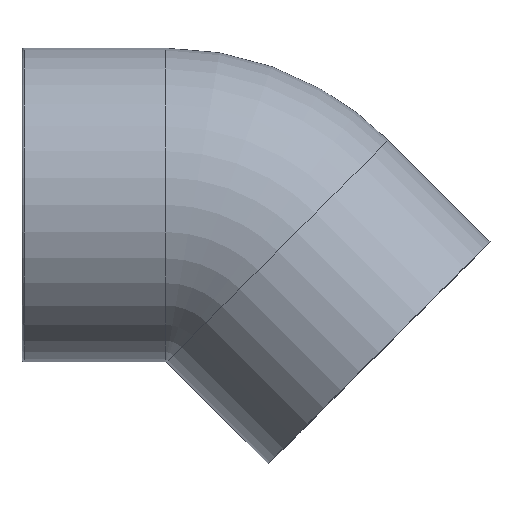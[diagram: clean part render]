
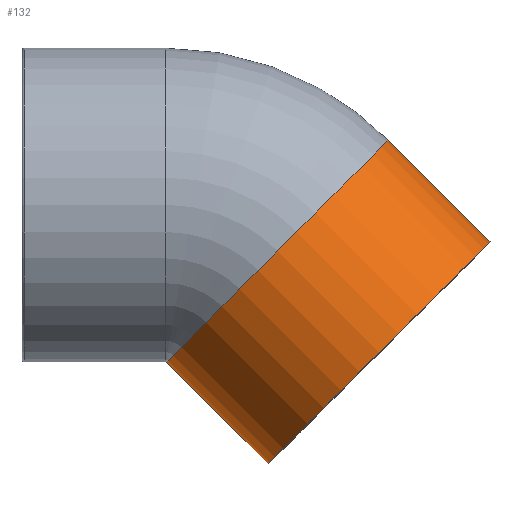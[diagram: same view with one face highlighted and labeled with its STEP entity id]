
A CAD part, top view. The second image highlights one B-rep face of the part: STEP entity #132.
In plain terms, the highlighted cylindrical face has radius 24 mm (diameter 48 mm), a full revolution.
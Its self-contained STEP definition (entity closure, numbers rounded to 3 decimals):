
#21=CYLINDRICAL_SURFACE('',#154,24.);
#30=FACE_BOUND('',#60,.T.);
#41=FACE_OUTER_BOUND('',#59,.T.);
#59=EDGE_LOOP('',(#114));
#60=EDGE_LOOP('',(#115));
#73=CIRCLE('',#150,24.);
#75=CIRCLE('',#153,24.);
#84=VERTEX_POINT('',#225);
#86=VERTEX_POINT('',#230);
#95=EDGE_CURVE('',#84,#84,#73,.T.);
#97=EDGE_CURVE('',#86,#86,#75,.T.);
#114=ORIENTED_EDGE('',*,*,#97,.T.);
#115=ORIENTED_EDGE('',*,*,#95,.F.);
#132=ADVANCED_FACE('',(#41,#30),#21,.T.);
#150=AXIS2_PLACEMENT_3D('',#226,#186,#187);
#153=AXIS2_PLACEMENT_3D('',#231,#192,#193);
#154=AXIS2_PLACEMENT_3D('',#232,#194,#195);
#186=DIRECTION('center_axis',(-0.707,0.707,0.));
#187=DIRECTION('ref_axis',(0.,0.,-1.));
#192=DIRECTION('center_axis',(-0.707,0.707,0.));
#193=DIRECTION('ref_axis',(0.,0.,-1.));
#194=DIRECTION('center_axis',(-0.707,0.707,0.));
#195=DIRECTION('ref_axis',(-0.707,-0.707,0.));
#225=CARTESIAN_POINT('',(7.071,-7.071,24.));
#226=CARTESIAN_POINT('Origin',(7.071,-7.071,0.));
#230=CARTESIAN_POINT('',(5.657,-39.598,0.));
#231=CARTESIAN_POINT('Origin',(22.627,-22.627,0.));
#232=CARTESIAN_POINT('Origin',(14.849,-14.849,0.));
